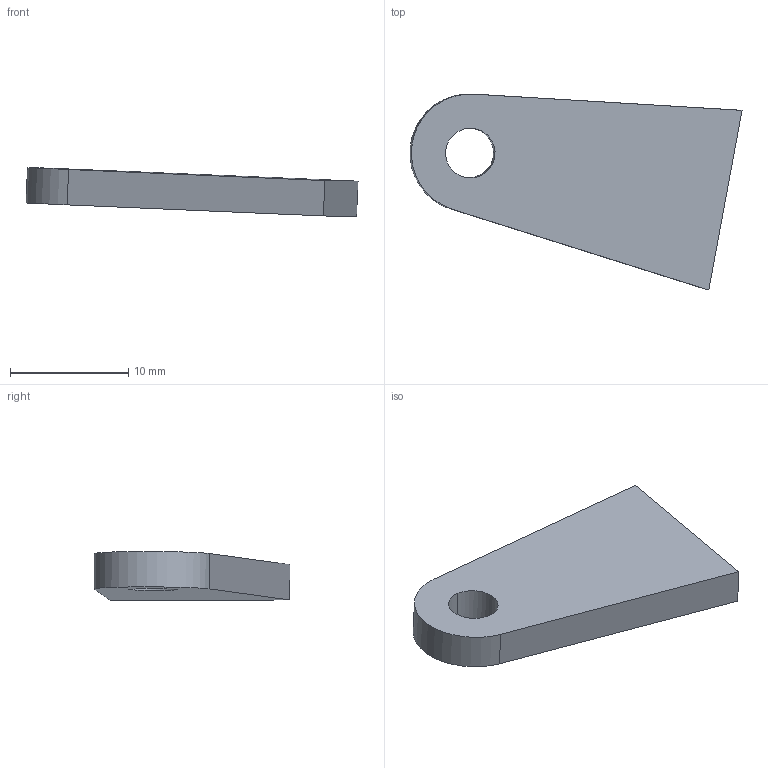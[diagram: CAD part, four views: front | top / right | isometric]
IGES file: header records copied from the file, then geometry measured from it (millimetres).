
Start section: START RECORD GO HERE.
Global section: file name: 20M_EN_05005 (chape de pompe).igs; native system: IBM CATIA IGES - CATIA Version 5 Release 19 ; preprocessor: CATIA Version 5 Release 19 ; author: Martin Kawczynski; organization: DESKTOP-UDLM1FC; date: 20200115.113334; units: millimetre
Bounding box: 28.13 x 16.6 x 4.15 mm (x, y, z)
Surface area: 879.2 mm2 (no closed solid volume)
Topology: 0 solids, 0 shells, 8 faces, 37 edges, 40 vertices
Faces by surface type: plane 5, revolution 3
